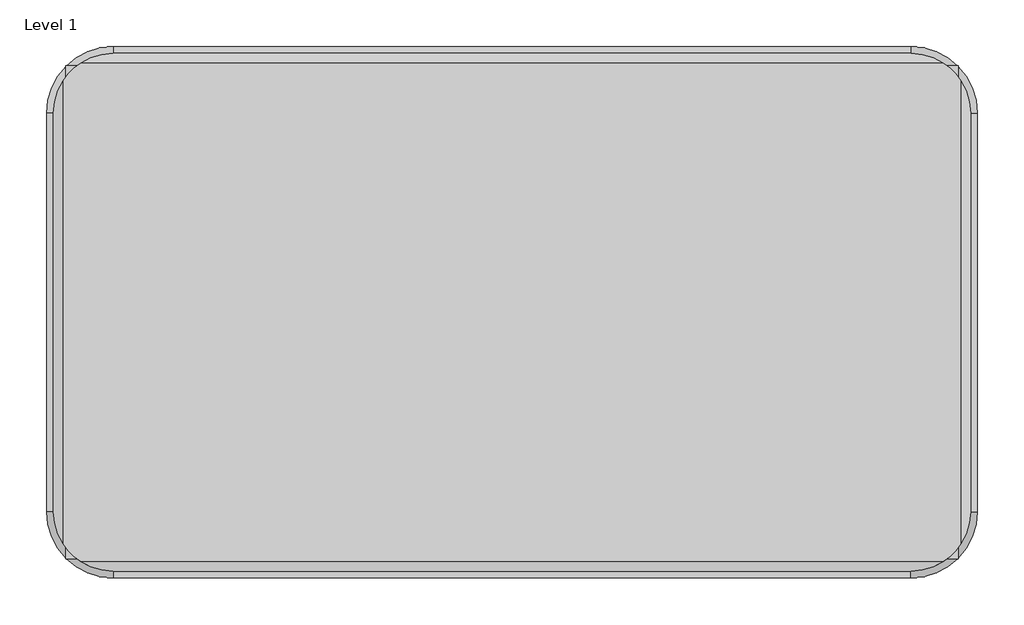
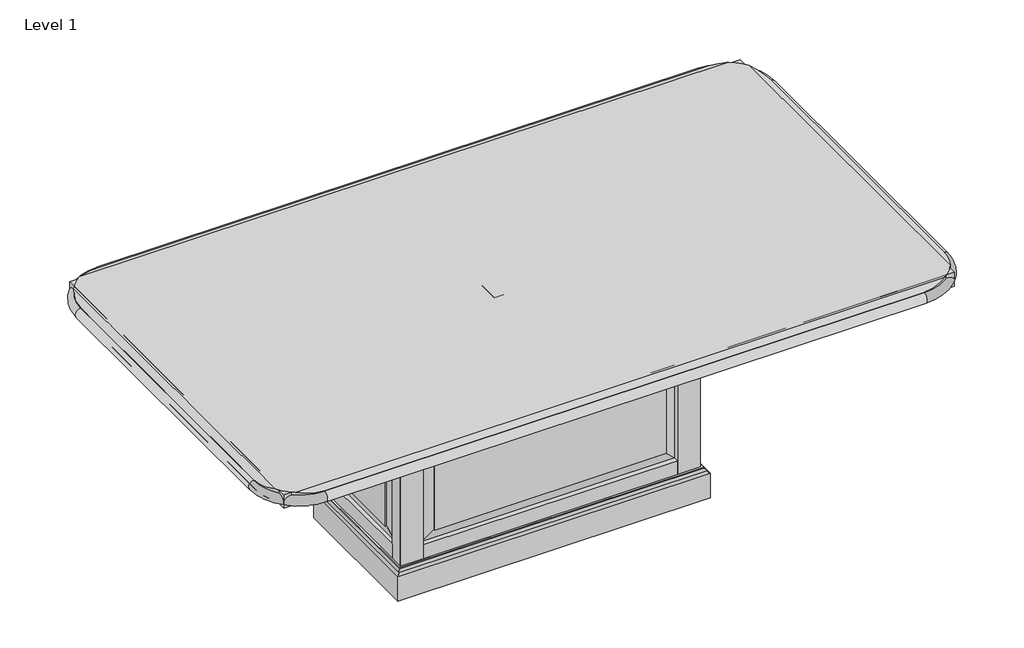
# One storey, incomplete: 32 proxies.
"""IFC4 building model written with IfcOpenShell, lengths in millimetres."""

from ifc_helpers import new_model, si_unit, origin, place, context, project, spatial, transform, mapped, element, save
from components import generic_models_d2158d0b, generic_models_8e3afade, generic_models_cfb6f23c, generic_models_080d9df8, generic_models_4b47a14f, generic_models_fbbde6ac, generic_models_6947fdd0, generic_models_d184988a, generic_models_eadb5b59, generic_models_ce6a4db7, generic_models_7e756234, generic_models_42825618, generic_models_289229bd, generic_models_041c4687, generic_models_2917942c, generic_models_c23ebd90, generic_models_e59b2663, generic_models_7f821ee5, generic_models_df23117e, generic_models_770b066f, generic_models_2dd7b272, generic_models_eaa0d349, generic_models_194ffc6f, generic_models_d604c78f, generic_models_03134556, generic_models_759ffe74, generic_models_bb5179e9, generic_models_c747732e, cantilever_bracket_h_496_45l_113475cd, cantilever_bracket_h_496_45l_mir1_5715caa5

model = new_model("IFC4")

# Units and contexts
model_context = context("Model", 3, world=origin())
ifc_project = project(units=[si_unit("LENGTHUNIT", "METRE", prefix="MILLI")], contexts=[model_context])

# Site, building, storey
site = spatial("IfcSite", under=ifc_project)
building = spatial("IfcBuilding", under=site)
storey = spatial("IfcBuildingStorey", under=building, Name="Level 1", Elevation=0.0)

# Proxies
placement = place(None, origin())
generic_models_shape = generic_models_d2158d0b(model_context)
element("IfcBuildingElementProxy", 1, Name="CAMBRIDGE^TABLE 2_4884 Rect-CORNER STILE 7", ObjectType="CAMBRIDGE^TABLE 2_4884 Rect-CORNER STILE 7", at=placement, inside=storey, context=model_context, shape_type="MappedRepresentation", body=[
    mapped(generic_models_shape, transform((0.0, 0.0, 0.0), x_axis=(1.0, 0.0, 0.0), y_axis=(0.0, 0.0, 1.0), z_axis=(0.0, -1.0, 0.0))),
])
generic_models_2_shape = generic_models_8e3afade(model_context)
element("IfcBuildingElementProxy", 2, Name="CAMBRIDGE^TABLE 2_4884 Rect-CORNER STILE 4", ObjectType="CAMBRIDGE^TABLE 2_4884 Rect-CORNER STILE 4", at=placement, inside=storey, context=model_context, shape_type="MappedRepresentation", body=[
    mapped(generic_models_2_shape, transform((0.0, 0.0, 0.0), x_axis=(1.0, 0.0, 0.0), y_axis=(0.0, 0.0, 1.0), z_axis=(0.0, -1.0, 0.0))),
])
generic_models_3_shape = generic_models_cfb6f23c(model_context)
element("IfcBuildingElementProxy", 3, Name="CAMBRIDGE^TABLE 2_4884 Rect-CORNER STILE 1", ObjectType="CAMBRIDGE^TABLE 2_4884 Rect-CORNER STILE 1", at=placement, inside=storey, context=model_context, shape_type="MappedRepresentation", body=[
    mapped(generic_models_3_shape, transform((0.0, 0.0, 0.0), x_axis=(1.0, 0.0, 0.0), y_axis=(0.0, 0.0, 1.0), z_axis=(0.0, -1.0, 0.0))),
])
generic_models_4_shape = generic_models_080d9df8(model_context)
element("IfcBuildingElementProxy", 4, Name="CAMBRIDGE^TABLE 2_4884 Rect-CORNER STILE 8", ObjectType="CAMBRIDGE^TABLE 2_4884 Rect-CORNER STILE 8", at=placement, inside=storey, context=model_context, shape_type="MappedRepresentation", body=[
    mapped(generic_models_4_shape, transform((0.0, 0.0, 0.0), x_axis=(1.0, 0.0, 0.0), y_axis=(0.0, 0.0, 1.0), z_axis=(0.0, -1.0, 0.0))),
])
generic_models_5_shape = generic_models_4b47a14f(model_context)
element("IfcBuildingElementProxy", 5, Name="CAMBRIDGE^TABLE 2_4884 Rect-CORNER STILE 5", ObjectType="CAMBRIDGE^TABLE 2_4884 Rect-CORNER STILE 5", at=placement, inside=storey, context=model_context, shape_type="MappedRepresentation", body=[
    mapped(generic_models_5_shape, transform((0.0, 0.0, 0.0), x_axis=(1.0, 0.0, 0.0), y_axis=(0.0, 0.0, 1.0), z_axis=(0.0, -1.0, 0.0))),
])
generic_models_6_shape = generic_models_fbbde6ac(model_context)
element("IfcBuildingElementProxy", 6, Name="CAMBRIDGE^TABLE 2_4884 Rect-OUT END PANEL", ObjectType="CAMBRIDGE^TABLE 2_4884 Rect-OUT END PANEL", at=placement, inside=storey, context=model_context, shape_type="MappedRepresentation", body=[
    mapped(generic_models_6_shape, transform((0.0, 0.0, 0.0), x_axis=(1.0, 0.0, 0.0), y_axis=(0.0, 0.0, 1.0), z_axis=(0.0, -1.0, 0.0))),
])
generic_models_7_shape = generic_models_6947fdd0(model_context)
element("IfcBuildingElementProxy", 7, Name="CAMBRIDGE^TABLE 2_4884 Rect-BASE DOOR", ObjectType="CAMBRIDGE^TABLE 2_4884 Rect-BASE DOOR", at=placement, inside=storey, context=model_context, shape_type="MappedRepresentation", body=[
    mapped(generic_models_7_shape, transform((0.0, 0.0, 0.0), x_axis=(1.0, 0.0, 0.0), y_axis=(0.0, 0.0, 1.0), z_axis=(0.0, -1.0, 0.0))),
])
generic_models_8_shape = generic_models_d184988a(model_context)
element("IfcBuildingElementProxy", 8, Name="CAMBRIDGE^TABLE 2_4884 Rect-TOP STILE 4", ObjectType="CAMBRIDGE^TABLE 2_4884 Rect-TOP STILE 4", at=placement, inside=storey, context=model_context, shape_type="MappedRepresentation", body=[
    mapped(generic_models_8_shape, transform((0.0, 0.0, 0.0), x_axis=(1.0, 0.0, 0.0), y_axis=(0.0, 0.0, 1.0), z_axis=(0.0, -1.0, 0.0))),
])
generic_models_9_shape = generic_models_eadb5b59(model_context)
element("IfcBuildingElementProxy", 9, Name="CAMBRIDGE^TABLE 2_4884 Rect-INSIDE END PANEL", ObjectType="CAMBRIDGE^TABLE 2_4884 Rect-INSIDE END PANEL", at=placement, inside=storey, context=model_context, shape_type="MappedRepresentation", body=[
    mapped(generic_models_9_shape, transform((0.0, 0.0, 0.0), x_axis=(1.0, 0.0, 0.0), y_axis=(0.0, 0.0, 1.0), z_axis=(0.0, -1.0, 0.0))),
])
generic_models_10_shape = generic_models_ce6a4db7(model_context)
element("IfcBuildingElementProxy", 10, Name="CAMBRIDGE^TABLE 2_4884 Rect-OUT SIDE PANEL 1", ObjectType="CAMBRIDGE^TABLE 2_4884 Rect-OUT SIDE PANEL 1", at=placement, inside=storey, context=model_context, shape_type="MappedRepresentation", body=[
    mapped(generic_models_10_shape, transform((0.0, 0.0, 0.0), x_axis=(1.0, 0.0, 0.0), y_axis=(0.0, 0.0, 1.0), z_axis=(0.0, -1.0, 0.0))),
])
generic_models_11_shape = generic_models_7e756234(model_context)
element("IfcBuildingElementProxy", 11, Name="CAMBRIDGE^TABLE 2_4884 Rect-TOP SOLID", ObjectType="CAMBRIDGE^TABLE 2_4884 Rect-TOP SOLID", at=placement, inside=storey, context=model_context, shape_type="MappedRepresentation", body=[
    mapped(generic_models_11_shape, transform((0.0, 0.0, 0.0), x_axis=(1.0, 0.0, 0.0), y_axis=(0.0, 0.0, 1.0), z_axis=(0.0, -1.0, 0.0))),
])
generic_models_12_shape = generic_models_42825618(model_context)
element("IfcBuildingElementProxy", 12, Name="CAMBRIDGE^TABLE 2_4884 Rect-CORNER STILE 6", ObjectType="CAMBRIDGE^TABLE 2_4884 Rect-CORNER STILE 6", at=placement, inside=storey, context=model_context, shape_type="MappedRepresentation", body=[
    mapped(generic_models_12_shape, transform((0.0, 0.0, 0.0), x_axis=(1.0, 0.0, 0.0), y_axis=(0.0, 0.0, 1.0), z_axis=(0.0, -1.0, 0.0))),
])
generic_models_13_shape = generic_models_289229bd(model_context)
element("IfcBuildingElementProxy", 13, Name="CAMBRIDGE^TABLE 2_4884 Rect-CORNER STILE 3", ObjectType="CAMBRIDGE^TABLE 2_4884 Rect-CORNER STILE 3", at=placement, inside=storey, context=model_context, shape_type="MappedRepresentation", body=[
    mapped(generic_models_13_shape, transform((0.0, 0.0, 0.0), x_axis=(1.0, 0.0, 0.0), y_axis=(0.0, 0.0, 1.0), z_axis=(0.0, -1.0, 0.0))),
])
generic_models_14_shape = generic_models_041c4687(model_context)
element("IfcBuildingElementProxy", 14, Name="CAMBRIDGE^TABLE 2_4884 Rect-BOTTOM STILE 2", ObjectType="CAMBRIDGE^TABLE 2_4884 Rect-BOTTOM STILE 2", at=placement, inside=storey, context=model_context, shape_type="MappedRepresentation", body=[
    mapped(generic_models_14_shape, transform((0.0, 0.0, 0.0), x_axis=(1.0, 0.0, 0.0), y_axis=(0.0, 0.0, 1.0), z_axis=(0.0, -1.0, 0.0))),
])
generic_models_15_shape = generic_models_2917942c(model_context)
element("IfcBuildingElementProxy", 15, Name="CAMBRIDGE^TABLE 2_4884 Rect-BOTTOM STILE 3", ObjectType="CAMBRIDGE^TABLE 2_4884 Rect-BOTTOM STILE 3", at=placement, inside=storey, context=model_context, shape_type="MappedRepresentation", body=[
    mapped(generic_models_15_shape, transform((0.0, 0.0, 0.0), x_axis=(1.0, 0.0, 0.0), y_axis=(0.0, 0.0, 1.0), z_axis=(0.0, -1.0, 0.0))),
])
generic_models_16_shape = generic_models_c23ebd90(model_context)
element("IfcBuildingElementProxy", 16, Name="CAMBRIDGE^TABLE 2_4884 Rect-CORNER STILE 2", ObjectType="CAMBRIDGE^TABLE 2_4884 Rect-CORNER STILE 2", at=placement, inside=storey, context=model_context, shape_type="MappedRepresentation", body=[
    mapped(generic_models_16_shape, transform((0.0, 0.0, 0.0), x_axis=(1.0, 0.0, 0.0), y_axis=(0.0, 0.0, 1.0), z_axis=(0.0, -1.0, 0.0))),
])
generic_models_17_shape = generic_models_e59b2663(model_context)
element("IfcBuildingElementProxy", 17, Name="CAMBRIDGE^TABLE 2_4884 Rect-INSIDE SIDE PANEL 2", ObjectType="CAMBRIDGE^TABLE 2_4884 Rect-INSIDE SIDE PANEL 2", at=placement, inside=storey, context=model_context, shape_type="MappedRepresentation", body=[
    mapped(generic_models_17_shape, transform((0.0, 0.0, 0.0), x_axis=(1.0, 0.0, 0.0), y_axis=(0.0, 0.0, 1.0), z_axis=(0.0, -1.0, 0.0))),
])
generic_models_18_shape = generic_models_7f821ee5(model_context)
element("IfcBuildingElementProxy", 18, Name="CAMBRIDGE^TABLE 2_4884 Rect-BOTTOM STILE 1", ObjectType="CAMBRIDGE^TABLE 2_4884 Rect-BOTTOM STILE 1", at=placement, inside=storey, context=model_context, shape_type="MappedRepresentation", body=[
    mapped(generic_models_18_shape, transform((0.0, 0.0, 0.0), x_axis=(1.0, 0.0, 0.0), y_axis=(0.0, 0.0, 1.0), z_axis=(0.0, -1.0, 0.0))),
])
generic_models_19_shape = generic_models_df23117e(model_context)
element("IfcBuildingElementProxy", 19, Name="CAMBRIDGE^TABLE 2_4884 Rect-TOP", ObjectType="CAMBRIDGE^TABLE 2_4884 Rect-TOP", at=placement, inside=storey, context=model_context, shape_type="MappedRepresentation", body=[
    mapped(generic_models_19_shape, transform((0.0, 0.0, 0.0), x_axis=(1.0, 0.0, 0.0), y_axis=(0.0, 0.0, 1.0), z_axis=(0.0, -1.0, 0.0))),
])
generic_models_20_shape = generic_models_770b066f(model_context)
element("IfcBuildingElementProxy", 20, Name="CAMBRIDGE^TABLE 2_4884 Rect-BASE SOLID", ObjectType="CAMBRIDGE^TABLE 2_4884 Rect-BASE SOLID", at=placement, inside=storey, context=model_context, shape_type="MappedRepresentation", body=[
    mapped(generic_models_20_shape, transform((0.0, 0.0, 0.0), x_axis=(1.0, 0.0, 0.0), y_axis=(0.0, 0.0, 1.0), z_axis=(0.0, -1.0, 0.0))),
])
generic_models_21_shape = generic_models_2dd7b272(model_context)
element("IfcBuildingElementProxy", 21, Name="CAMBRIDGE^TABLE 2_4884 Rect-TOP STILE 1", ObjectType="CAMBRIDGE^TABLE 2_4884 Rect-TOP STILE 1", at=placement, inside=storey, context=model_context, shape_type="MappedRepresentation", body=[
    mapped(generic_models_21_shape, transform((0.0, 0.0, 0.0), x_axis=(1.0, 0.0, 0.0), y_axis=(0.0, 0.0, 1.0), z_axis=(0.0, -1.0, 0.0))),
])
generic_models_22_shape = generic_models_eaa0d349(model_context)
element("IfcBuildingElementProxy", 22, Name="CAMBRIDGE^TABLE 2_4884 Rect-INSIDE SIDE PANEL 1", ObjectType="CAMBRIDGE^TABLE 2_4884 Rect-INSIDE SIDE PANEL 1", at=placement, inside=storey, context=model_context, shape_type="MappedRepresentation", body=[
    mapped(generic_models_22_shape, transform((0.0, 0.0, 0.0), x_axis=(1.0, 0.0, 0.0), y_axis=(0.0, 0.0, 1.0), z_axis=(0.0, -1.0, 0.0))),
])
generic_models_23_shape = generic_models_194ffc6f(model_context)
element("IfcBuildingElementProxy", 23, Name="CAMBRIDGE^TABLE 2_4884 Rect-POWER LID", ObjectType="CAMBRIDGE^TABLE 2_4884 Rect-POWER LID", at=placement, inside=storey, context=model_context, shape_type="MappedRepresentation", body=[
    mapped(generic_models_23_shape, transform((977.9, 683.6058489, 19.05), x_axis=(1.0, 0.0, 0.0), y_axis=(0.0, 0.0, 1.0), z_axis=(0.0, -1.0, 0.0))),
])
generic_models_24_shape = generic_models_d604c78f(model_context)
element("IfcBuildingElementProxy", 24, Name="CAMBRIDGE^TABLE 2_4884 Rect-OUT SIDE PANEL 2", ObjectType="CAMBRIDGE^TABLE 2_4884 Rect-OUT SIDE PANEL 2", at=placement, inside=storey, context=model_context, shape_type="MappedRepresentation", body=[
    mapped(generic_models_24_shape, transform((0.0, 0.0, 0.0), x_axis=(1.0, 0.0, 0.0), y_axis=(0.0, 0.0, 1.0), z_axis=(0.0, -1.0, 0.0))),
])
generic_models_25_shape = generic_models_03134556(model_context)
element("IfcBuildingElementProxy", 25, Name="CAMBRIDGE^TABLE 2_4884 Rect-TOP STILE 2", ObjectType="CAMBRIDGE^TABLE 2_4884 Rect-TOP STILE 2", at=placement, inside=storey, context=model_context, shape_type="MappedRepresentation", body=[
    mapped(generic_models_25_shape, transform((0.0, 0.0, 0.0), x_axis=(1.0, 0.0, 0.0), y_axis=(0.0, 0.0, 1.0), z_axis=(0.0, -1.0, 0.0))),
])
generic_models_26_shape = generic_models_759ffe74(model_context)
element("IfcBuildingElementProxy", 26, Name="CAMBRIDGE^TABLE 2_4884 Rect-TOP BLOCKING", ObjectType="CAMBRIDGE^TABLE 2_4884 Rect-TOP BLOCKING", at=placement, inside=storey, context=model_context, shape_type="MappedRepresentation", body=[
    mapped(generic_models_26_shape, transform((0.0, 0.0, 0.0), x_axis=(1.0, 0.0, 0.0), y_axis=(0.0, 0.0, 1.0), z_axis=(0.0, -1.0, 0.0))),
])
generic_models_27_shape = generic_models_bb5179e9(model_context)
element("IfcBuildingElementProxy", 27, Name="CAMBRIDGE^TABLE 2_4884 Rect-TOP STILE 3", ObjectType="CAMBRIDGE^TABLE 2_4884 Rect-TOP STILE 3", at=placement, inside=storey, context=model_context, shape_type="MappedRepresentation", body=[
    mapped(generic_models_27_shape, transform((0.0, 0.0, 0.0), x_axis=(1.0, 0.0, 0.0), y_axis=(0.0, 0.0, 1.0), z_axis=(0.0, -1.0, 0.0))),
])
generic_models_28_shape = generic_models_c747732e(model_context)
element("IfcBuildingElementProxy", 28, Name="CAMBRIDGE^TABLE 2_4884 Rect-BOTTOM STILE 4", ObjectType="CAMBRIDGE^TABLE 2_4884 Rect-BOTTOM STILE 4", at=placement, inside=storey, context=model_context, shape_type="MappedRepresentation", body=[
    mapped(generic_models_28_shape, transform((0.0, 0.0, 0.0), x_axis=(1.0, 0.0, 0.0), y_axis=(0.0, 0.0, 1.0), z_axis=(0.0, -1.0, 0.0))),
])
cantilever_bracket_h_496_45l_shape = cantilever_bracket_h_496_45l_113475cd(model_context)
element("IfcBuildingElementProxy", 29, Name="CANTILEVER BRACKET H-496-45L", ObjectType="CANTILEVER BRACKET H-496-45L", at=placement, inside=storey, context=model_context, shape_type="MappedRepresentation", body=[
    mapped(cantilever_bracket_h_496_45l_shape, transform((398.8566493, 1023.5433507, -203.2), x_axis=(0.7071067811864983, -0.7071067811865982, 0.0), y_axis=(0.0, 0.0, 0.9999999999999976), z_axis=(-0.7071067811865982, -0.7071067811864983, 0.0))),
])
element("IfcBuildingElementProxy", 30, Name="CANTILEVER BRACKET H-496-45L", ObjectType="CANTILEVER BRACKET H-496-45L", at=placement, inside=storey, context=model_context, shape_type="MappedRepresentation", body=[
    mapped(cantilever_bracket_h_496_45l_shape, transform((1734.7433507, 195.6566493, -203.2), x_axis=(-0.7071067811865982, 0.7071067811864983, 0.0), y_axis=(0.0, 0.0, 0.9999999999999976), z_axis=(0.7071067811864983, 0.7071067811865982, 0.0))),
])
cantilever_bracket_h_496_45l_mir1_shape = cantilever_bracket_h_496_45l_mir1_5715caa5(model_context)
element("IfcBuildingElementProxy", 31, Name="CANTILEVER BRACKET H-496-45L_MIR1", ObjectType="CANTILEVER BRACKET H-496-45L_MIR1", at=placement, inside=storey, context=model_context, shape_type="MappedRepresentation", body=[
    mapped(cantilever_bracket_h_496_45l_mir1_shape, transform((398.8566493, 195.6566493, -203.2), x_axis=(0.7071067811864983, 0.7071067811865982, 0.0), y_axis=(0.0, 0.0, 0.9999999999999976), z_axis=(0.7071067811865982, -0.7071067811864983, 0.0))),
])
element("IfcBuildingElementProxy", 32, Name="CANTILEVER BRACKET H-496-45L_MIR1", ObjectType="CANTILEVER BRACKET H-496-45L_MIR1", at=placement, inside=storey, context=model_context, shape_type="MappedRepresentation", body=[
    mapped(cantilever_bracket_h_496_45l_mir1_shape, transform((1734.7433507, 1023.5433507, -203.2), x_axis=(-0.7071067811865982, -0.7071067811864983, 0.0), y_axis=(0.0, 0.0, 0.9999999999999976), z_axis=(-0.7071067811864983, 0.7071067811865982, 0.0))),
])

save(model, "model.ifc")
